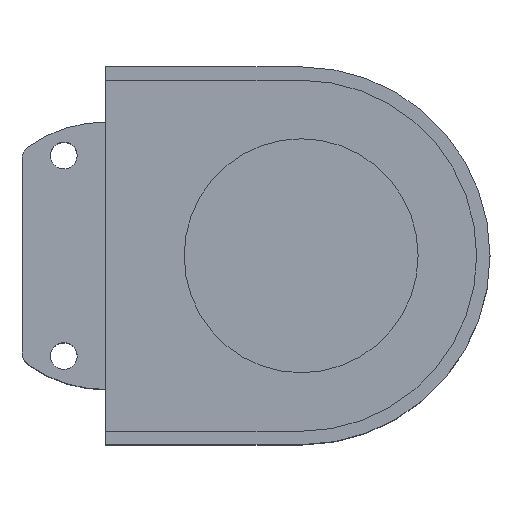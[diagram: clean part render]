
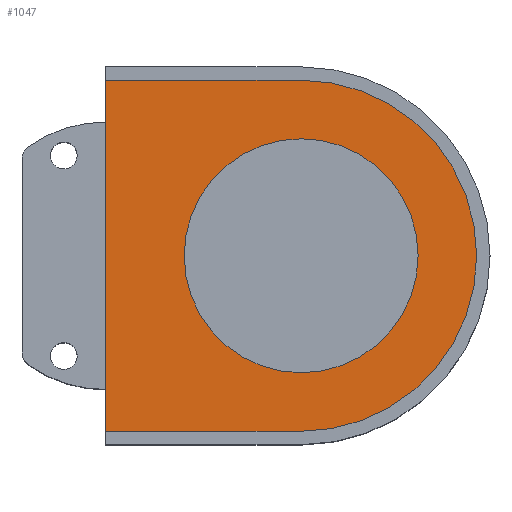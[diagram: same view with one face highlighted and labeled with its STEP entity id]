
A CAD part, top view. The second image highlights one B-rep face of the part: STEP entity #1047.
In plain terms, the highlighted planar face has unit normal (0, 0, 1).
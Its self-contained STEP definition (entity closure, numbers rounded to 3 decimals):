
#36 = CARTESIAN_POINT ( 'NONE',  ( -115., -4., 42.5 ) ) ;
#74 = LINE ( 'NONE', #1061, #87 ) ;
#77 = VECTOR ( 'NONE', #979, 1000. ) ;
#82 = CIRCLE ( 'NONE', #530, 35. ) ;
#87 = VECTOR ( 'NONE', #936, 1000. ) ;
#103 = LINE ( 'NONE', #1029, #77 ) ;
#110 = CIRCLE ( 'NONE', #601, 52.5 ) ;
#138 = CARTESIAN_POINT ( 'NONE',  ( -56.5, -56.5, 42.5 ) ) ;
#163 = CARTESIAN_POINT ( 'NONE',  ( -56.5, -4., 42.5 ) ) ;
#167 = DIRECTION ( 'NONE',  ( 0., 0., -1. ) ) ;
#175 = CARTESIAN_POINT ( 'NONE',  ( -115., -109., 42.5 ) ) ;
#194 = VECTOR ( 'NONE', #1260, 1000. ) ;
#205 = LINE ( 'NONE', #624, #194 ) ;
#215 = FACE_OUTER_BOUND ( 'NONE', #1151, .T. ) ;
#231 = FACE_BOUND ( 'NONE', #1358, .T. ) ;
#268 = DIRECTION ( 'NONE',  ( -1., 0., 0. ) ) ;
#465 = AXIS2_PLACEMENT_3D ( 'NONE', #138, #586, #268 ) ;
#530 = AXIS2_PLACEMENT_3D ( 'NONE', #1289, #1258, #1265 ) ;
#563 = VERTEX_POINT ( 'NONE', #36 ) ;
#567 = VERTEX_POINT ( 'NONE', #163 ) ;
#569 = DIRECTION ( 'NONE',  ( -1., 0., 0. ) ) ;
#586 = DIRECTION ( 'NONE',  ( 0., 0., -1. ) ) ;
#601 = AXIS2_PLACEMENT_3D ( 'NONE', #1245, #1186, #1190 ) ;
#624 = CARTESIAN_POINT ( 'NONE',  ( -115., -16.5, 42.5 ) ) ;
#649 = VERTEX_POINT ( 'NONE', #175 ) ;
#685 = CARTESIAN_POINT ( 'NONE',  ( -56.5, -56.5, 42.5 ) ) ;
#706 = CARTESIAN_POINT ( 'NONE',  ( -91.5, -56.5, 42.5 ) ) ;
#714 = ORIENTED_EDGE ( 'NONE', *, *, #1133, .T. ) ;
#715 = ORIENTED_EDGE ( 'NONE', *, *, #1259, .T. ) ;
#720 = ORIENTED_EDGE ( 'NONE', *, *, #1050, .T. ) ;
#721 = PLANE ( 'NONE',  #797 ) ;
#723 = ORIENTED_EDGE ( 'NONE', *, *, #1134, .F. ) ;
#724 = ORIENTED_EDGE ( 'NONE', *, *, #1114, .F. ) ;
#725 = ORIENTED_EDGE ( 'NONE', *, *, #1138, .T. ) ;
#797 = AXIS2_PLACEMENT_3D ( 'NONE', #685, #167, #569 ) ;
#919 = CIRCLE ( 'NONE', #465, 35. ) ;
#936 = DIRECTION ( 'NONE',  ( -1., 0., 0. ) ) ;
#979 = DIRECTION ( 'NONE',  ( -1., 0., 0. ) ) ;
#1029 = CARTESIAN_POINT ( 'NONE',  ( -56.5, -109., 42.5 ) ) ;
#1047 = ADVANCED_FACE ( 'NONE', ( #231, #215 ), #721, .F. ) ;
#1050 = EDGE_CURVE ( 'NONE', #563, #649, #205, .T. ) ;
#1061 = CARTESIAN_POINT ( 'NONE',  ( -56.5, -4., 42.5 ) ) ;
#1074 = VERTEX_POINT ( 'NONE', #1231 ) ;
#1114 = EDGE_CURVE ( 'NONE', #567, #1217, #110, .T. ) ;
#1133 = EDGE_CURVE ( 'NONE', #1074, #1360, #82, .T. ) ;
#1134 = EDGE_CURVE ( 'NONE', #1217, #649, #103, .T. ) ;
#1138 = EDGE_CURVE ( 'NONE', #567, #563, #74, .T. ) ;
#1151 = EDGE_LOOP ( 'NONE', ( #720, #723, #724, #725 ) ) ;
#1177 = CARTESIAN_POINT ( 'NONE',  ( -56.5, -109., 42.5 ) ) ;
#1186 = DIRECTION ( 'NONE',  ( 0., 0., -1. ) ) ;
#1190 = DIRECTION ( 'NONE',  ( -1., 0., 0. ) ) ;
#1217 = VERTEX_POINT ( 'NONE', #1177 ) ;
#1231 = CARTESIAN_POINT ( 'NONE',  ( -21.5, -56.5, 42.5 ) ) ;
#1245 = CARTESIAN_POINT ( 'NONE',  ( -56.5, -56.5, 42.5 ) ) ;
#1258 = DIRECTION ( 'NONE',  ( 0., 0., -1. ) ) ;
#1259 = EDGE_CURVE ( 'NONE', #1360, #1074, #919, .T. ) ;
#1260 = DIRECTION ( 'NONE',  ( 0., -1., 0. ) ) ;
#1265 = DIRECTION ( 'NONE',  ( -1., 0., 0. ) ) ;
#1289 = CARTESIAN_POINT ( 'NONE',  ( -56.5, -56.5, 42.5 ) ) ;
#1358 = EDGE_LOOP ( 'NONE', ( #714, #715 ) ) ;
#1360 = VERTEX_POINT ( 'NONE', #706 ) ;
